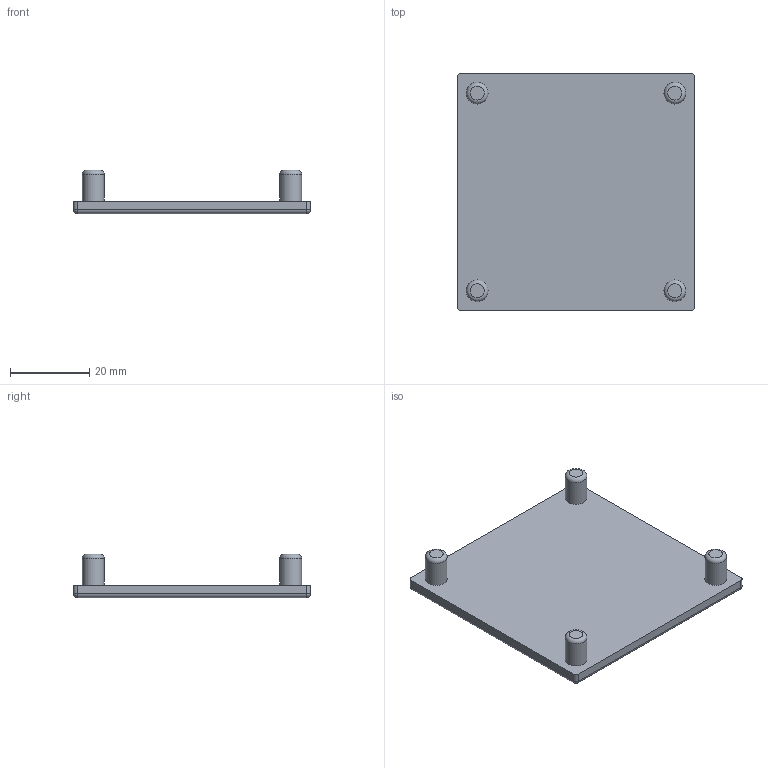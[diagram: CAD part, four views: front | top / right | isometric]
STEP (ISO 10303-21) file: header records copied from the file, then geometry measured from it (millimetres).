
FILE_DESCRIPTION((''),'2;1');
FILE_NAME('X:\Ritarkiv\STEP-Carryline Standarddelar\100-2040.stp','2009-11-09T07:51:41',('marcus'),(''),'Autodesk Inventor 2010','Autodesk Inventor 2010','');
FILE_SCHEMA(('AUTOMOTIVE_DESIGN { 1 0 10303 214 1 1 1 1 }'));
Length unit declared in the file: millimetre
Products named in the file (1): 100-2040
Bounding box: 60 x 60 x 11 mm (x, y, z)
Volume: 12194 mm3; surface area: 8365.7 mm2
Topology: 1 solids, 1 shells, 30 faces, 60 edges, 32 vertices
Faces by surface type: cylinder 12, plane 10, torus 4, sphere 4
Full cylindrical faces by diameter (mm): 5.5 x4
Entity records: 726 total; most frequent: DIRECTION 138, CARTESIAN_POINT 111, ORIENTED_EDGE 96, AXIS2_PLACEMENT_3D 59, EDGE_CURVE 48, EDGE_LOOP 42, VERTEX_POINT 32, FACE_OUTER_BOUND 30
